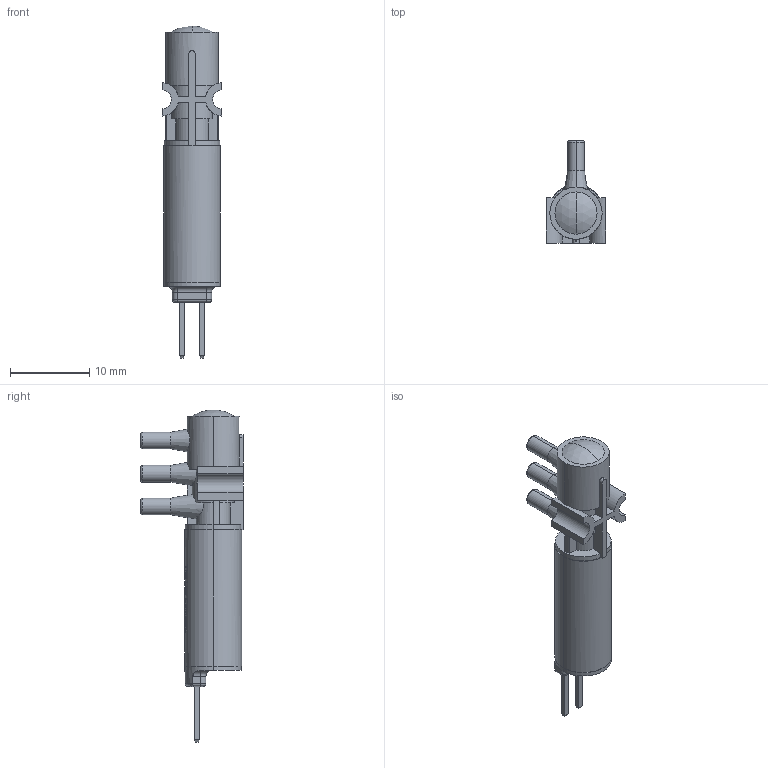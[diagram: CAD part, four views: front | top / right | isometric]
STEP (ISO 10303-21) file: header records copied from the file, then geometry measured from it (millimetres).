
FILE_DESCRIPTION (( 'STEP AP214' ), '1' );
FILE_NAME ('Lee-LHL_Series-3-Port_Ported-CAD_Model A1.step', '2021-03-01T20:30:31', ( '' ), ( '' ), 'SwSTEP 2.0', 'SolidWorks 2019', '' );
FILE_SCHEMA (( 'AUTOMOTIVE_DESIGN' ));
Length unit declared in the file: inch
Products named in the file (1): Lee-LHL_Series-3-Port_Ported-CAD_Model A1
Bounding box: 7.47 x 12.93 x 41.96 mm (x, y, z)
Volume: 1256.6 mm3; surface area: 1195.2 mm2
Topology: 1 solids, 1 shells, 612 faces, 1621 edges, 1069 vertices
Faces by surface type: bspline 262, plane 227, cylinder 104, torus 11, cone 6, sphere 2
Entity records: 38244 total; most frequent: CARTESIAN_POINT 17347, ORIENTED_EDGE 3242, DIRECTION 1734, EDGE_CURVE 1621, VERTEX_POINT 1069, B_SPLINE_CURVE_WITH_KNOTS 874, EDGE_LOOP 670, AXIS2_PLACEMENT_3D 636
